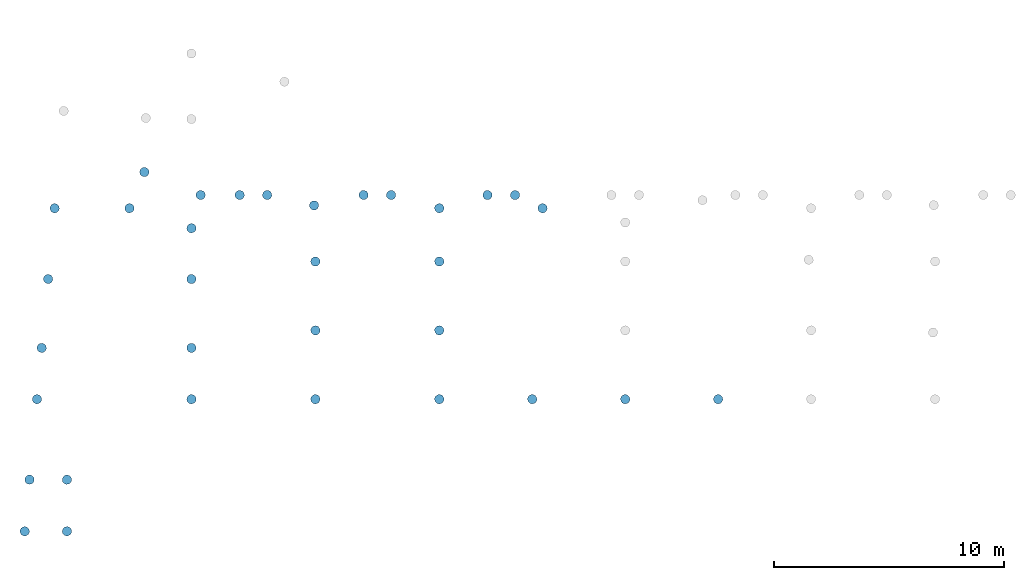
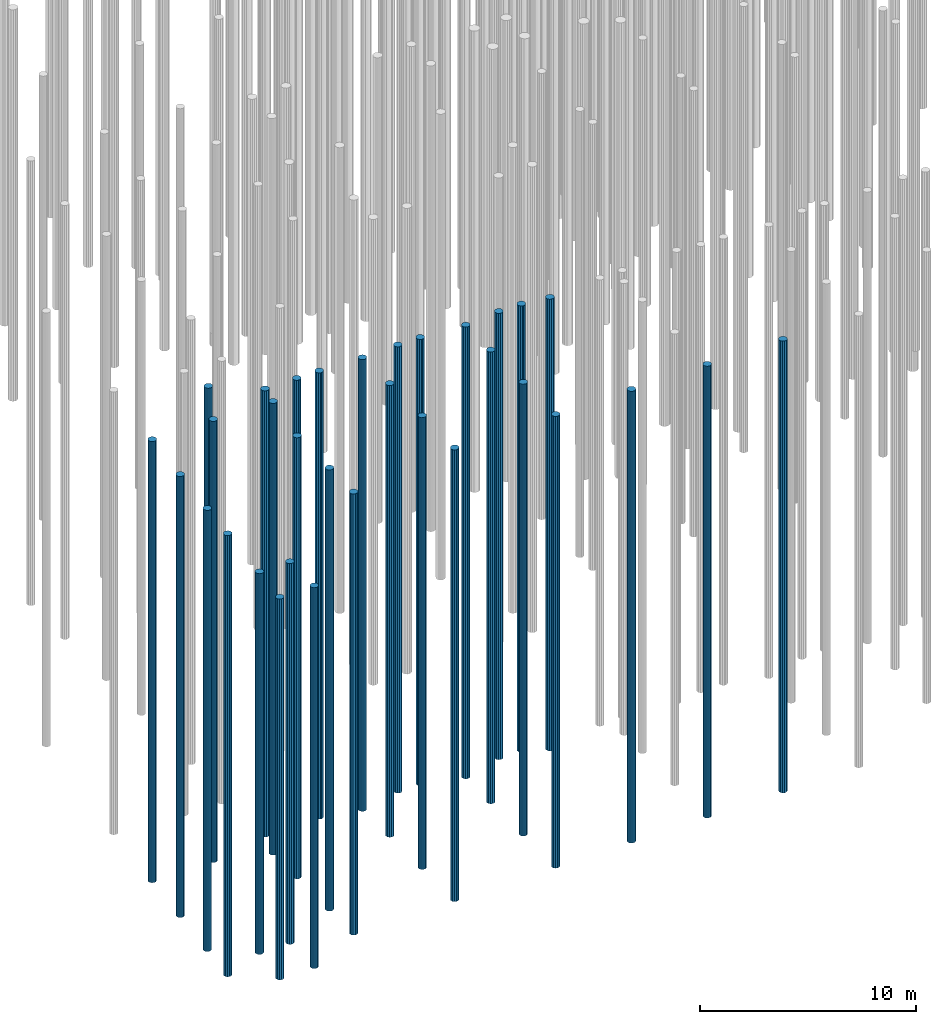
# One storey, part 1 of 20: 33 piles.
"""IFC2X3 building model written with IfcOpenShell, lengths in millimetres."""

from ifc_helpers import new_model, entity, si_unit, converted_unit, derived_unit, direction, frame, origin, place, context, subcontext, project, spatial, polyline, outline, extrude, material, element, save


model = new_model("IFC2X3")

# Units and contexts
model_context = context("Model", 3, precision=0.01, world=origin(), true_north=direction((6.12303176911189e-17, 1.0)))
body_context = subcontext(model_context, "Body", "Model", "MODEL_VIEW")
ifc_project = project(units=[si_unit("LENGTHUNIT", "METRE", prefix="MILLI"), si_unit("AREAUNIT", "SQUARE_METRE"), si_unit("VOLUMEUNIT", "CUBIC_METRE"), converted_unit("PLANEANGLEUNIT", "DEGREE", entity("IfcRatioMeasure", 0.0174532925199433), si_unit("PLANEANGLEUNIT", "RADIAN"), dimensions=[0, 0, 0, 0, 0, 0, 0]), si_unit("MASSUNIT", "GRAM", prefix="KILO"), derived_unit("MASSDENSITYUNIT", [(si_unit("MASSUNIT", "GRAM", prefix="KILO"), 1), (si_unit("LENGTHUNIT", "METRE"), -3)]), si_unit("TIMEUNIT", "SECOND"), si_unit("FREQUENCYUNIT", "HERTZ"), si_unit("THERMODYNAMICTEMPERATUREUNIT", "DEGREE_CELSIUS"), derived_unit("THERMALTRANSMITTANCEUNIT", [(si_unit("MASSUNIT", "GRAM", prefix="KILO"), 1), (si_unit("THERMODYNAMICTEMPERATUREUNIT", "KELVIN"), -1), (si_unit("TIMEUNIT", "SECOND"), -3)]), derived_unit("VOLUMETRICFLOWRATEUNIT", [(si_unit("LENGTHUNIT", "METRE"), 3), (si_unit("TIMEUNIT", "SECOND"), -1)]), si_unit("ELECTRICCURRENTUNIT", "AMPERE"), si_unit("ELECTRICVOLTAGEUNIT", "VOLT"), si_unit("POWERUNIT", "WATT"), si_unit("FORCEUNIT", "NEWTON", prefix="KILO"), si_unit("ILLUMINANCEUNIT", "LUX"), si_unit("LUMINOUSFLUXUNIT", "LUMEN"), si_unit("LUMINOUSINTENSITYUNIT", "CANDELA"), derived_unit("USERDEFINED", [(si_unit("MASSUNIT", "GRAM", prefix="KILO"), -1), (si_unit("LENGTHUNIT", "METRE"), -2), (si_unit("TIMEUNIT", "SECOND"), 3), (si_unit("LUMINOUSFLUXUNIT", "LUMEN"), 1)]), derived_unit("LINEARVELOCITYUNIT", [(si_unit("LENGTHUNIT", "METRE"), 1), (si_unit("TIMEUNIT", "SECOND"), -1)]), si_unit("PRESSUREUNIT", "PASCAL"), derived_unit("USERDEFINED", [(si_unit("LENGTHUNIT", "METRE"), -2), (si_unit("MASSUNIT", "GRAM", prefix="KILO"), 1), (si_unit("TIMEUNIT", "SECOND"), -2)])], contexts=[model_context])

# Site, building, storey
site_placement = place(None, origin())
site = spatial("IfcSite", under=ifc_project, at=site_placement, Name="Default", CompositionType="ELEMENT")
building_placement = place(site_placement, origin())
building = spatial("IfcBuilding", under=site, at=building_placement, Name="niet gebruiken", CompositionType="ELEMENT")
storey_placement = place(building_placement, frame((0.0, 0.0, -4000.0)))
storey = spatial("IfcBuildingStorey", under=building, at=storey_placement, Name="Level t.b.v. palenplan", CompositionType="ELEMENT", Elevation=-4000.0)

# Piles
ifc_material = material(Name="NLRS_f2_beton ihwg")
pile_1_placement = place(storey_placement, origin())
element("IfcPile", 1, at=pile_1_placement, inside=storey, material=ifc_material, Name="NLRS_17.12_SFO_TLB_funderingspaal grondverdringend_gen:Fundex_r410/500", ObjectType="NLRS_17.12_SFO_TLB_funderingspaal grondverdringend_gen:Fundex_r410/500", context=body_context, shape_type="SweptSolid", body=[
    extrude(outline(polyline([(-49.0597111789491, -199.04307257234), (49.0597111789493, -199.04307257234), (135.940144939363, -153.444703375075), (191.67832975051, -72.6940018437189), (203.505319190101, 24.7100194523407), (168.7116925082, 116.453273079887), (95.2682502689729, 181.518485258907), (49.05971117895, 199.04307257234), (-49.0597111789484, 199.04307257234), (-135.940144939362, 153.444703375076), (-191.678329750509, 72.694001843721), (-203.505319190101, -24.7100194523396), (-168.7116925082, -116.453273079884), (-95.2682502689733, -181.518485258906), (-49.0597111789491, -199.04307257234)])), frame((8100.0, 300.0, -22600.0), z_axis=(0.0, 0.0, 1.0), x_axis=(0.239315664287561, -0.970941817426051, 0.0)), (0.0, 0.0, 1.0), 24928.0),
])
pile_2_placement = place(storey_placement, origin())
element("IfcPile", 2, at=pile_2_placement, inside=storey, material=ifc_material, Name="NLRS_17.12_SFO_TLB_funderingspaal grondverdringend_gen:Fundex_r410/500", ObjectType="NLRS_17.12_SFO_TLB_funderingspaal grondverdringend_gen:Fundex_r410/500", context=body_context, shape_type="SweptSolid", body=[
    extrude(outline(polyline([(-49.0597111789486, -199.04307257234), (49.0597111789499, -199.04307257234), (135.940144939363, -153.444703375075), (191.678329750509, -72.6940018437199), (203.5053191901, 24.7100194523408), (168.711692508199, 116.453273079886), (95.2682502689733, 181.518485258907), (49.0597111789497, 199.043072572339), (-49.0597111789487, 199.04307257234), (-135.940144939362, 153.444703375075), (-191.678329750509, 72.6940018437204), (-203.5053191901, -24.7100194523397), (-168.7116925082, -116.453273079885), (-95.2682502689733, -181.518485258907), (-49.0597111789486, -199.04307257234)])), frame((2675.0, -5455.0, -19100.0), z_axis=(0.0, 0.0, 1.0), x_axis=(0.239315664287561, -0.970941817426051, 0.0)), (0.0, 0.0, 1.0), 21518.0),
])
pile_3_placement = place(storey_placement, origin())
element("IfcPile", 3, at=pile_3_placement, inside=storey, material=ifc_material, Name="NLRS_17.12_SFO_TLB_funderingspaal grondverdringend_gen:Fundex_r410/500", ObjectType="NLRS_17.12_SFO_TLB_funderingspaal grondverdringend_gen:Fundex_r410/500", context=body_context, shape_type="SweptSolid", body=[
    extrude(outline(polyline([(-49.0597111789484, -199.04307257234), (49.0597111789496, -199.04307257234), (135.940144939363, -153.444703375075), (191.67832975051, -72.6940018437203), (203.505319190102, 24.7100194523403), (168.7116925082, 116.453273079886), (95.2682502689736, 181.518485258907), (49.0597111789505, 199.043072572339), (-49.0597111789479, 199.04307257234), (-135.940144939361, 153.444703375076), (-191.678329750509, 72.6940018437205), (-203.5053191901, -24.7100194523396), (-168.7116925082, -116.453273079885), (-95.268250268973, -181.518485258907), (-49.0597111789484, -199.04307257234)])), frame((2675.0, -3205.0, -19100.0), z_axis=(0.0, 0.0, 1.0), x_axis=(0.239315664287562, -0.970941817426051, 0.0)), (0.0, 0.0, 1.0), 21518.0),
])
pile_4_placement = place(storey_placement, origin())
element("IfcPile", 4, at=pile_4_placement, inside=storey, material=ifc_material, Name="NLRS_17.12_SFO_TLB_funderingspaal grondverdringend_gen:Fundex_r410/500", ObjectType="NLRS_17.12_SFO_TLB_funderingspaal grondverdringend_gen:Fundex_r410/500", context=body_context, shape_type="SweptSolid", body=[
    extrude(outline(polyline([(-49.059711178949, -199.04307257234), (49.059711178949, -199.04307257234), (135.940144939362, -153.444703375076), (191.67832975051, -72.6940018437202), (203.505319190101, 24.7100194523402), (168.7116925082, 116.453273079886), (95.268250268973, 181.518485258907), (49.05971117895, 199.043072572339), (-49.0597111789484, 199.04307257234), (-135.940144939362, 153.444703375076), (-191.678329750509, 72.6940018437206), (-203.5053191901, -24.7100194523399), (-168.7116925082, -116.453273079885), (-95.2682502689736, -181.518485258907), (-49.059711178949, -199.04307257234)])), frame((1045.0, -3205.0, -19100.0), z_axis=(0.0, 0.0, 1.0), x_axis=(0.239315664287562, -0.970941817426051, 0.0)), (0.0, 0.0, 1.0), 21518.0),
])
pile_5_placement = place(storey_placement, origin())
element("IfcPile", 5, at=pile_5_placement, inside=storey, material=ifc_material, Name="NLRS_17.12_SFO_TLB_funderingspaal grondverdringend_gen:Fundex_r410/500", ObjectType="NLRS_17.12_SFO_TLB_funderingspaal grondverdringend_gen:Fundex_r410/500", context=body_context, shape_type="SweptSolid", body=[
    extrude(outline(polyline([(-49.0597111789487, -199.04307257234), (49.0597111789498, -199.04307257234), (135.940144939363, -153.444703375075), (191.678329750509, -72.6940018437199), (203.5053191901, 24.7100194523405), (168.711692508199, 116.453273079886), (95.2682502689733, 181.518485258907), (49.0597111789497, 199.043072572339), (-49.0597111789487, 199.04307257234), (-135.940144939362, 153.444703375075), (-191.678329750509, 72.6940018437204), (-203.5053191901, -24.7100194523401), (-168.7116925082, -116.453273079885), (-95.2682502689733, -181.518485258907), (-49.0597111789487, -199.04307257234)])), frame((835.0, -5455.0, -19100.0), z_axis=(0.0, 0.0, 1.0), x_axis=(0.239315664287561, -0.970941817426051, 0.0)), (0.0, 0.0, 1.0), 21518.0),
])
pile_6_placement = place(storey_placement, origin())
element("IfcPile", 6, at=pile_6_placement, inside=storey, material=ifc_material, Name="NLRS_17.12_SFO_TLB_funderingspaal grondverdringend_gen:Fundex_r410/500", ObjectType="NLRS_17.12_SFO_TLB_funderingspaal grondverdringend_gen:Fundex_r410/500", context=body_context, shape_type="SweptSolid", body=[
    extrude(outline(polyline([(-49.059711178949, -199.04307257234), (49.0597111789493, -199.04307257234), (135.940144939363, -153.444703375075), (191.67832975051, -72.6940018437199), (203.5053191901, 24.7100194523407), (168.711692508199, 116.453273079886), (95.2682502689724, 181.518485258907), (49.0597111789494, 199.04307257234), (-49.0597111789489, 199.04307257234), (-135.940144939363, 153.444703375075), (-191.67832975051, 72.6940018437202), (-203.505319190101, -24.7100194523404), (-168.7116925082, -116.453273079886), (-95.2682502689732, -181.518485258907), (-49.059711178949, -199.04307257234)])), frame((1370.0, 300.0, -22600.0), z_axis=(0.0, 0.0, 1.0), x_axis=(0.23931566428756, -0.970941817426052, 0.0)), (0.0, 0.0, 1.0), 24928.0),
])
pile_7_placement = place(storey_placement, origin())
element("IfcPile", 7, at=pile_7_placement, inside=storey, material=ifc_material, Name="NLRS_17.12_SFO_TLB_funderingspaal grondverdringend_gen:Fundex_r410/500", ObjectType="NLRS_17.12_SFO_TLB_funderingspaal grondverdringend_gen:Fundex_r410/500", context=body_context, shape_type="SweptSolid", body=[
    extrude(outline(polyline([(-49.0597111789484, -199.04307257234), (49.0597111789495, -199.04307257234), (135.940144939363, -153.444703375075), (191.67832975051, -72.69400184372), (203.505319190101, 24.7100194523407), (168.711692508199, 116.453273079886), (95.2682502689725, 181.518485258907), (49.0597111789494, 199.04307257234), (-49.059711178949, 199.04307257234), (-135.940144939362, 153.444703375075), (-191.678329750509, 72.6940018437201), (-203.5053191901, -24.7100194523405), (-168.7116925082, -116.453273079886), (-95.2682502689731, -181.518485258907), (-49.0597111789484, -199.04307257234)])), frame((1575.0, 2535.0, -22600.0), z_axis=(0.0, 0.0, 1.0), x_axis=(0.239315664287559, -0.970941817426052, 0.0)), (0.0, 0.0, 1.0), 24928.0),
])
pile_8_placement = place(storey_placement, origin())
element("IfcPile", 8, at=pile_8_placement, inside=storey, material=ifc_material, Name="NLRS_17.12_SFO_TLB_funderingspaal grondverdringend_gen:Fundex_r410/500", ObjectType="NLRS_17.12_SFO_TLB_funderingspaal grondverdringend_gen:Fundex_r410/500", context=body_context, shape_type="SweptSolid", body=[
    extrude(outline(polyline([(-49.0597111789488, -199.04307257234), (49.0597111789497, -199.04307257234), (135.940144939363, -153.444703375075), (191.678329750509, -72.6940018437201), (203.5053191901, 24.7100194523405), (168.711692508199, 116.453273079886), (95.2682502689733, 181.518485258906), (49.0597111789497, 199.043072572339), (-49.0597111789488, 199.04307257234), (-135.940144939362, 153.444703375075), (-191.678329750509, 72.6940018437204), (-203.5053191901, -24.7100194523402), (-168.7116925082, -116.453273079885), (-95.2682502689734, -181.518485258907), (-49.0597111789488, -199.04307257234)])), frame((1855.0, 5535.0, -22600.0), z_axis=(0.0, 0.0, 1.0), x_axis=(0.239315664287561, -0.970941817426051, 0.0)), (0.0, 0.0, 1.0), 24928.0),
])
pile_9_placement = place(storey_placement, origin())
element("IfcPile", 9, at=pile_9_placement, inside=storey, material=ifc_material, Name="NLRS_17.12_SFO_TLB_funderingspaal grondverdringend_gen:Fundex_r410/500", ObjectType="NLRS_17.12_SFO_TLB_funderingspaal grondverdringend_gen:Fundex_r410/500", context=body_context, shape_type="SweptSolid", body=[
    extrude(outline(polyline([(-49.0597111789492, -199.04307257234), (49.0597111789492, -199.04307257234), (135.940144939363, -153.444703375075), (191.678329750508, -72.6940018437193), (203.505319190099, 24.7100194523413), (168.711692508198, 116.453273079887), (95.2682502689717, 181.518485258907), (49.0597111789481, 199.04307257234), (-49.0597111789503, 199.04307257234), (-135.940144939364, 153.444703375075), (-191.67832975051, 72.6940018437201), (-203.505319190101, -24.7100194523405), (-168.711692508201, -116.453273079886), (-95.268250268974, -181.518485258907), (-49.0597111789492, -199.04307257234)])), frame((2140.0, 8621.0, -22600.0), z_axis=(0.0, 0.0, 1.0), x_axis=(0.239315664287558, -0.970941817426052, 0.0)), (0.0, 0.0, 1.0), 24928.0),
])
pile_10_placement = place(storey_placement, origin())
element("IfcPile", 10, at=pile_10_placement, inside=storey, material=ifc_material, Name="NLRS_17.12_SFO_TLB_funderingspaal grondverdringend_gen:Fundex_r410/500", ObjectType="NLRS_17.12_SFO_TLB_funderingspaal grondverdringend_gen:Fundex_r410/500", context=body_context, shape_type="SweptSolid", body=[
    extrude(outline(polyline([(-49.0597111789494, -199.04307257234), (49.0597111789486, -199.04307257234), (135.940144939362, -153.444703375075), (191.678329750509, -72.694001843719), (203.5053191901, 24.7100194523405), (168.711692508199, 116.453273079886), (95.2682502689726, 181.518485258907), (49.0597111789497, 199.043072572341), (-49.0597111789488, 199.043072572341), (-135.940144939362, 153.444703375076), (-191.678329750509, 72.6940018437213), (-203.505319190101, -24.7100194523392), (-168.7116925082, -116.453273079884), (-95.268250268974, -181.518485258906), (-49.0597111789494, -199.04307257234)])), frame((8100.0, 2535.0, -22600.0), z_axis=(0.0, 0.0, 1.0), x_axis=(0.239315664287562, -0.970941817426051, 0.0)), (0.0, 0.0, 1.0), 24928.0),
])
pile_11_placement = place(storey_placement, origin())
element("IfcPile", 11, at=pile_11_placement, inside=storey, material=ifc_material, Name="NLRS_17.12_SFO_TLB_funderingspaal grondverdringend_gen:Fundex_r410/500", ObjectType="NLRS_17.12_SFO_TLB_funderingspaal grondverdringend_gen:Fundex_r410/500", context=body_context, shape_type="SweptSolid", body=[
    extrude(outline(polyline([(-49.0597111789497, -199.043072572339), (49.0597111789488, -199.043072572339), (135.940144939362, -153.444703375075), (191.678329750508, -72.6940018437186), (203.505319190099, 24.710019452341), (168.711692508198, 116.453273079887), (95.2682502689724, 181.518485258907), (49.0597111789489, 199.043072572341), (-49.0597111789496, 199.043072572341), (-135.940144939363, 153.444703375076), (-191.67832975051, 72.6940018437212), (-203.505319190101, -24.7100194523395), (-168.711692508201, -116.453273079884), (-95.2682502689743, -181.518485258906), (-49.0597111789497, -199.043072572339)])), frame((8100.0, 5535.0, -22600.0), z_axis=(0.0, 0.0, 1.0), x_axis=(0.239315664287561, -0.970941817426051, 0.0)), (0.0, 0.0, 1.0), 24928.0),
])
pile_12_placement = place(storey_placement, origin())
element("IfcPile", 12, at=pile_12_placement, inside=storey, material=ifc_material, Name="NLRS_17.12_SFO_TLB_funderingspaal grondverdringend_gen:Fundex_r410/500", ObjectType="NLRS_17.12_SFO_TLB_funderingspaal grondverdringend_gen:Fundex_r410/500", context=body_context, shape_type="SweptSolid", body=[
    extrude(outline(polyline([(-49.0597111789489, -199.043072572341), (49.0597111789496, -199.043072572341), (135.940144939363, -153.444703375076), (191.678329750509, -72.6940018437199), (203.5053191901, 24.7100194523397), (168.711692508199, 116.453273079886), (95.2682502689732, 181.518485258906), (49.0597111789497, 199.043072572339), (-49.0597111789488, 199.043072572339), (-135.940144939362, 153.444703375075), (-191.678329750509, 72.6940018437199), (-203.5053191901, -24.7100194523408), (-168.7116925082, -116.453273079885), (-95.2682502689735, -181.518485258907), (-49.0597111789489, -199.043072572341)])), frame((5400.0, 8621.0, -22600.0), z_axis=(0.0, 0.0, 1.0), x_axis=(0.239315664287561, -0.970941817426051, 0.0)), (0.0, 0.0, 1.0), 24928.0),
])
pile_13_placement = place(storey_placement, origin())
element("IfcPile", 13, at=pile_13_placement, inside=storey, material=ifc_material, Name="NLRS_17.12_SFO_TLB_funderingspaal grondverdringend_gen:Fundex_r410/500", ObjectType="NLRS_17.12_SFO_TLB_funderingspaal grondverdringend_gen:Fundex_r410/500", context=body_context, shape_type="SweptSolid", body=[
    extrude(outline(polyline([(-49.0597111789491, -199.04307257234), (49.0597111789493, -199.04307257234), (135.940144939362, -153.444703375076), (191.678329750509, -72.694001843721), (203.5053191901, 24.7100194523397), (168.711692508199, 116.453273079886), (95.2682502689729, 181.518485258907), (49.0597111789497, 199.043072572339), (-49.0597111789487, 199.043072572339), (-135.940144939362, 153.444703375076), (-191.678329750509, 72.694001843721), (-203.505319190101, -24.7100194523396), (-168.7116925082, -116.453273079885), (-95.2682502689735, -181.518485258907), (-49.0597111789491, -199.04307257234)])), frame((13500.0, 300.0, -22600.0), z_axis=(0.0, 0.0, 1.0), x_axis=(0.239315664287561, -0.970941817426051, 0.0)), (0.0, 0.0, 1.0), 25528.0),
])
pile_14_placement = place(storey_placement, origin())
element("IfcPile", 14, at=pile_14_placement, inside=storey, material=ifc_material, Name="NLRS_17.12_SFO_TLB_funderingspaal grondverdringend_gen:Fundex_r410/500", ObjectType="NLRS_17.12_SFO_TLB_funderingspaal grondverdringend_gen:Fundex_r410/500", context=body_context, shape_type="SweptSolid", body=[
    extrude(outline(polyline([(-49.0597111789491, -199.04307257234), (49.0597111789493, -199.04307257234), (135.940144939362, -153.444703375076), (191.678329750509, -72.694001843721), (203.5053191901, 24.7100194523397), (168.711692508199, 116.453273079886), (95.2682502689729, 181.518485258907), (49.0597111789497, 199.043072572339), (-49.0597111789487, 199.043072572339), (-135.940144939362, 153.444703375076), (-191.678329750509, 72.694001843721), (-203.505319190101, -24.7100194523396), (-168.7116925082, -116.453273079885), (-95.2682502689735, -181.518485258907), (-49.0597111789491, -199.04307257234)])), frame((18900.0, 300.0, -22600.0), z_axis=(0.0, 0.0, 1.0), x_axis=(0.239315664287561, -0.970941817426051, 0.0)), (0.0, 0.0, 1.0), 25528.0),
])
pile_15_placement = place(storey_placement, origin())
element("IfcPile", 15, at=pile_15_placement, inside=storey, material=ifc_material, Name="NLRS_17.12_SFO_TLB_funderingspaal grondverdringend_gen:Fundex_r410/500", ObjectType="NLRS_17.12_SFO_TLB_funderingspaal grondverdringend_gen:Fundex_r410/500", context=body_context, shape_type="SweptSolid", body=[
    extrude(outline(polyline([(-49.0597111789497, -199.043072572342), (49.0597111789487, -199.043072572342), (135.940144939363, -153.444703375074), (191.67832975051, -72.6940018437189), (203.5053191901, 24.7100194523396), (168.711692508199, 116.453273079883), (95.2682502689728, 181.518485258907), (49.0597111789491, 199.043072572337), (-49.0597111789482, 199.043072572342), (-135.940144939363, 153.444703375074), (-191.67832975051, 72.6940018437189), (-203.505319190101, -24.7100194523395), (-168.7116925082, -116.453273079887), (-95.2682502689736, -181.518485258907), (-49.0597111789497, -199.043072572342)])), frame((22950.0, 300.0, -22600.0), z_axis=(0.0, 0.0, 1.0), x_axis=(0.239315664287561, -0.970941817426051, 0.0)), (0.0, 0.0, 1.0), 25528.0),
])
pile_16_placement = place(storey_placement, origin())
element("IfcPile", 16, at=pile_16_placement, inside=storey, material=ifc_material, Name="NLRS_17.12_SFO_TLB_funderingspaal grondverdringend_gen:Fundex_r410/500", ObjectType="NLRS_17.12_SFO_TLB_funderingspaal grondverdringend_gen:Fundex_r410/500", context=body_context, shape_type="SweptSolid", body=[
    extrude(outline(polyline([(-49.0597111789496, -199.043072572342), (49.0597111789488, -199.043072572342), (135.940144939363, -153.444703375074), (191.67832975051, -72.6940018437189), (203.5053191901, 24.7100194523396), (168.711692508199, 116.453273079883), (95.2682502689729, 181.518485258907), (49.0597111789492, 199.043072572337), (-49.0597111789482, 199.043072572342), (-135.940144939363, 153.444703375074), (-191.67832975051, 72.6940018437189), (-203.505319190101, -24.7100194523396), (-168.7116925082, -116.453273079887), (-95.2682502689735, -181.518485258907), (-49.0597111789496, -199.043072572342)])), frame((27000.0, 300.0, -22600.0), z_axis=(0.0, 0.0, 1.0), x_axis=(0.239315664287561, -0.970941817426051, 0.0)), (0.0, 0.0, 1.0), 25528.0),
])
pile_17_placement = place(storey_placement, origin())
element("IfcPile", 17, at=pile_17_placement, inside=storey, material=ifc_material, Name="NLRS_17.12_SFO_TLB_funderingspaal grondverdringend_gen:Fundex_r410/500", ObjectType="NLRS_17.12_SFO_TLB_funderingspaal grondverdringend_gen:Fundex_r410/500", context=body_context, shape_type="SweptSolid", body=[
    extrude(outline(polyline([(-49.0597111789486, -199.043072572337), (49.0597111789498, -199.043072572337), (135.940144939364, -153.44470337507), (191.678329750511, -72.6940018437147), (203.505319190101, 24.7100194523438), (168.7116925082, 116.453273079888), (95.2682502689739, 181.518485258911), (49.0597111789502, 199.043072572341), (-49.0597111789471, 199.043072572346), (-135.940144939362, 153.444703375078), (-191.678329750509, 72.6940018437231), (-203.5053191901, -24.7100194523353), (-168.711692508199, -116.453273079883), (-95.2682502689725, -181.518485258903), (-49.0597111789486, -199.043072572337)])), frame((31050.0, 300.0, -22600.0), z_axis=(0.0, 0.0, 1.0), x_axis=(0.239315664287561, -0.970941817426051, 0.0)), (0.0, 0.0, 1.0), 25528.0),
])
pile_18_placement = place(storey_placement, origin())
element("IfcPile", 18, at=pile_18_placement, inside=storey, material=ifc_material, Name="NLRS_17.12_SFO_TLB_funderingspaal grondverdringend_gen:Fundex_r410/500", ObjectType="NLRS_17.12_SFO_TLB_funderingspaal grondverdringend_gen:Fundex_r410/500", context=body_context, shape_type="SweptSolid", body=[
    extrude(outline(polyline([(-49.0597111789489, -199.043072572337), (49.0597111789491, -199.043072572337), (135.940144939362, -153.444703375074), (191.678329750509, -72.694001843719), (203.505319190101, 24.7100194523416), (168.7116925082, 116.453273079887), (95.2682502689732, 181.518485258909), (49.0597111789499, 199.043072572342), (-49.0597111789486, 199.043072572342), (-135.940144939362, 153.444703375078), (-191.678329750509, 72.6940018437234), (-203.5053191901, -24.7100194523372), (-168.7116925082, -116.453273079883), (-95.2682502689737, -181.518485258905), (-49.0597111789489, -199.043072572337)])), frame((13500.0, 3300.0, -22600.0), z_axis=(0.0, 0.0, 1.0), x_axis=(0.239315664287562, -0.970941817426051, 0.0)), (0.0, 0.0, 1.0), 25528.0),
])
pile_19_placement = place(storey_placement, origin())
element("IfcPile", 19, at=pile_19_placement, inside=storey, material=ifc_material, Name="NLRS_17.12_SFO_TLB_funderingspaal grondverdringend_gen:Fundex_r410/500", ObjectType="NLRS_17.12_SFO_TLB_funderingspaal grondverdringend_gen:Fundex_r410/500", context=body_context, shape_type="SweptSolid", body=[
    extrude(outline(polyline([(-49.0597111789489, -199.043072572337), (49.0597111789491, -199.043072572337), (135.940144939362, -153.444703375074), (191.678329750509, -72.694001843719), (203.505319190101, 24.7100194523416), (168.7116925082, 116.453273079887), (95.2682502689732, 181.518485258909), (49.0597111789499, 199.043072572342), (-49.0597111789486, 199.043072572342), (-135.940144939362, 153.444703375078), (-191.678329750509, 72.6940018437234), (-203.5053191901, -24.7100194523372), (-168.7116925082, -116.453273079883), (-95.2682502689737, -181.518485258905), (-49.0597111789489, -199.043072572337)])), frame((18900.0, 3300.0, -22600.0), z_axis=(0.0, 0.0, 1.0), x_axis=(0.239315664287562, -0.970941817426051, 0.0)), (0.0, 0.0, 1.0), 25528.0),
])
pile_20_placement = place(storey_placement, origin())
element("IfcPile", 20, at=pile_20_placement, inside=storey, material=ifc_material, Name="NLRS_17.12_SFO_TLB_funderingspaal grondverdringend_gen:Fundex_r410/500", ObjectType="NLRS_17.12_SFO_TLB_funderingspaal grondverdringend_gen:Fundex_r410/500", context=body_context, shape_type="SweptSolid", body=[
    extrude(outline(polyline([(-49.0597111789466, -199.043072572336), (49.059711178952, -199.043072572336), (135.940144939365, -153.444703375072), (191.678329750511, -72.6940018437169), (203.505319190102, 24.7100194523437), (168.711692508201, 116.45327307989), (95.2682502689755, 181.518485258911), (49.0597111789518, 199.043072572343), (-49.0597111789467, 199.043072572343), (-135.94014493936, 153.44470337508), (-191.678329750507, 72.6940018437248), (-203.505319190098, -24.7100194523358), (-168.711692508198, -116.453273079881), (-95.2682502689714, -181.518485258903), (-49.0597111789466, -199.043072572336)])), frame((13500.0, 6300.0, -22600.0), z_axis=(0.0, 0.0, 1.0), x_axis=(0.239315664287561, -0.970941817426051, 0.0)), (0.0, 0.0, 1.0), 25528.0),
])
pile_21_placement = place(storey_placement, origin())
element("IfcPile", 21, at=pile_21_placement, inside=storey, material=ifc_material, Name="NLRS_17.12_SFO_TLB_funderingspaal grondverdringend_gen:Fundex_r410/500", ObjectType="NLRS_17.12_SFO_TLB_funderingspaal grondverdringend_gen:Fundex_r410/500", context=body_context, shape_type="SweptSolid", body=[
    extrude(outline(polyline([(-49.0597111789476, -199.04307257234), (49.0597111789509, -199.04307257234), (135.940144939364, -153.444703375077), (191.67832975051, -72.6940018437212), (203.505319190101, 24.7100194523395), (168.7116925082, 116.453273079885), (95.2682502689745, 181.518485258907), (49.0597111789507, 199.043072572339), (-49.0597111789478, 199.043072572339), (-135.940144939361, 153.444703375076), (-191.678329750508, 72.6940018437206), (-203.505319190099, -24.71001945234), (-168.711692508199, -116.453273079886), (-95.2682502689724, -181.518485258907), (-49.0597111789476, -199.04307257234)])), frame((18900.0, 6300.0, -22600.0), z_axis=(0.0, 0.0, 1.0), x_axis=(0.239315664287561, -0.970941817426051, 0.0)), (0.0, 0.0, 1.0), 25528.0),
])
pile_22_placement = place(storey_placement, origin())
element("IfcPile", 22, at=pile_22_placement, inside=storey, material=ifc_material, Name="NLRS_17.12_SFO_TLB_funderingspaal grondverdringend_gen:Fundex_r410/500", ObjectType="NLRS_17.12_SFO_TLB_funderingspaal grondverdringend_gen:Fundex_r410/500", context=body_context, shape_type="SweptSolid", body=[
    extrude(outline(polyline([(-49.0597111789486, -199.04307257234), (49.0597111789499, -199.04307257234), (135.940144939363, -153.444703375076), (191.678329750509, -72.6940018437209), (203.5053191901, 24.7100194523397), (168.711692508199, 116.453273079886), (95.2682502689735, 181.518485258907), (49.0597111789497, 199.043072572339), (-49.0597111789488, 199.043072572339), (-135.940144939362, 153.444703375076), (-191.678329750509, 72.6940018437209), (-203.5053191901, -24.7100194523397), (-168.7116925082, -116.453273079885), (-95.2682502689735, -181.518485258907), (-49.0597111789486, -199.04307257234)])), frame((13441.7462136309, 8742.57806895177, -22600.0), z_axis=(0.0, 0.0, 1.0), x_axis=(0.239315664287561, -0.970941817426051, 0.0)), (0.0, 0.0, 1.0), 25528.0),
])
pile_23_placement = place(storey_placement, origin())
element("IfcPile", 23, at=pile_23_placement, inside=storey, material=ifc_material, Name="NLRS_17.12_SFO_TLB_funderingspaal grondverdringend_gen:Fundex_r410/500", ObjectType="NLRS_17.12_SFO_TLB_funderingspaal grondverdringend_gen:Fundex_r410/500", context=body_context, shape_type="SweptSolid", body=[
    extrude(outline(polyline([(-49.0597111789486, -199.04307257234), (49.0597111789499, -199.04307257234), (135.940144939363, -153.444703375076), (191.678329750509, -72.6940018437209), (203.5053191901, 24.7100194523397), (168.711692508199, 116.453273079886), (95.2682502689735, 181.518485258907), (49.0597111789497, 199.043072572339), (-49.0597111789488, 199.043072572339), (-135.940144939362, 153.444703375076), (-191.678329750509, 72.6940018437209), (-203.5053191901, -24.7100194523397), (-168.7116925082, -116.453273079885), (-95.2682502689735, -181.518485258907), (-49.0597111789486, -199.04307257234)])), frame((18900.0, 8621.0, -22600.0), z_axis=(0.0, 0.0, 1.0), x_axis=(0.239315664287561, -0.970941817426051, 0.0)), (0.0, 0.0, 1.0), 25528.0),
])
pile_24_placement = place(storey_placement, origin())
element("IfcPile", 24, at=pile_24_placement, inside=storey, material=ifc_material, Name="NLRS_17.12_SFO_TLB_funderingspaal grondverdringend_gen:Fundex_r410/500", ObjectType="NLRS_17.12_SFO_TLB_funderingspaal grondverdringend_gen:Fundex_r410/500", context=body_context, shape_type="SweptSolid", body=[
    extrude(outline(polyline([(-49.0597111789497, -199.043072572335), (49.0597111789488, -199.043072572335), (135.940144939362, -153.444703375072), (191.67832975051, -72.6940018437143), (203.505319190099, 24.7100194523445), (168.711692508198, 116.45327307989), (95.2682502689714, 181.518485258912), (49.0597111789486, 199.043072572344), (-49.0597111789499, 199.043072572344), (-135.940144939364, 153.444703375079), (-191.678329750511, 72.6940018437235), (-203.505319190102, -24.7100194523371), (-168.7116925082, -116.453273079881), (-95.2682502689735, -181.518485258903), (-49.0597111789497, -199.043072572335)])), frame((15600.0, 9196.0, -22600.0), z_axis=(0.0, 0.0, 1.0), x_axis=(0.239315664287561, -0.970941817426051, 0.0)), (0.0, 0.0, 1.0), 25220.0),
])
pile_25_placement = place(storey_placement, origin())
element("IfcPile", 25, at=pile_25_placement, inside=storey, material=ifc_material, Name="NLRS_17.12_SFO_TLB_funderingspaal grondverdringend_gen:Fundex_r410/500", ObjectType="NLRS_17.12_SFO_TLB_funderingspaal grondverdringend_gen:Fundex_r410/500", context=body_context, shape_type="SweptSolid", body=[
    extrude(outline(polyline([(-49.0597111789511, -199.04307257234), (49.0597111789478, -199.04307257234), (135.940144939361, -153.444703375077), (191.678329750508, -72.6940018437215), (203.5053191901, 24.7100194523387), (168.711692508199, 116.453273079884), (95.268250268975, 181.518485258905), (49.0597111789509, 199.043072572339), (-49.0597111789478, 199.04307257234), (-135.940144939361, 153.444703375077), (-191.678329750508, 72.6940018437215), (-203.505319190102, -24.7100194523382), (-168.711692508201, -116.453273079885), (-95.2682502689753, -181.518485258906), (-49.0597111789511, -199.04307257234)])), frame((16800.0, 9196.0, -22600.0), z_axis=(0.0, 0.0, 1.0), x_axis=(-0.970941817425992, -0.239315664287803, 0.0)), (0.0, 0.0, 1.0), 25220.0),
])
pile_26_placement = place(storey_placement, origin())
element("IfcPile", 26, at=pile_26_placement, inside=storey, material=ifc_material, Name="NLRS_17.12_SFO_TLB_funderingspaal grondverdringend_gen:Fundex_r410/500", ObjectType="NLRS_17.12_SFO_TLB_funderingspaal grondverdringend_gen:Fundex_r410/500", context=body_context, shape_type="SweptSolid", body=[
    extrude(outline(polyline([(-49.0597111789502, -199.043072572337), (49.0597111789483, -199.043072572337), (135.940144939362, -153.444703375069), (191.67832975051, -72.6940018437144), (203.505319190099, 24.7100194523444), (168.711692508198, 116.453273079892), (95.2682502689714, 181.518485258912), (49.0597111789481, 199.043072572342), (-49.0597111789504, 199.043072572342), (-135.940144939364, 153.444703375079), (-191.678329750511, 72.6940018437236), (-203.505319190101, -24.710019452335), (-168.7116925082, -116.453273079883), (-95.2682502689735, -181.518485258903), (-49.0597111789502, -199.043072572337)])), frame((21000.0, 9196.0, -22600.0), z_axis=(0.0, 0.0, 1.0), x_axis=(0.239315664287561, -0.970941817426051, 0.0)), (0.0, 0.0, 1.0), 25220.0),
])
pile_27_placement = place(storey_placement, origin())
element("IfcPile", 27, at=pile_27_placement, inside=storey, material=ifc_material, Name="NLRS_17.12_SFO_TLB_funderingspaal grondverdringend_gen:Fundex_r410/500", ObjectType="NLRS_17.12_SFO_TLB_funderingspaal grondverdringend_gen:Fundex_r410/500", context=body_context, shape_type="SweptSolid", body=[
    extrude(outline(polyline([(-49.0597111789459, -199.043072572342), (49.059711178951, -199.043072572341), (135.940144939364, -153.444703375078), (191.678329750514, -72.694001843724), (203.505319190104, 24.7100194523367), (168.711692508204, 116.453273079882), (95.2682502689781, 181.518485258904), (49.0597111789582, 199.043072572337), (-49.0597111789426, 199.043072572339), (-135.940144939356, 153.444703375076), (-191.678329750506, 72.6940018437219), (-203.505319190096, -24.7100194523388), (-168.711692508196, -116.453273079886), (-95.2682502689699, -181.518485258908), (-49.0597111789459, -199.043072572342)])), frame((22200.0, 9196.0, -22600.0), z_axis=(0.0, 0.0, 1.0), x_axis=(-0.970941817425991, -0.239315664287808, 0.0)), (0.0, 0.0, 1.0), 25220.0),
])
pile_28_placement = place(storey_placement, origin())
element("IfcPile", 28, at=pile_28_placement, inside=storey, material=ifc_material, Name="NLRS_17.12_SFO_TLB_funderingspaal grondverdringend_gen:Fundex_r410/500", ObjectType="NLRS_17.12_SFO_TLB_funderingspaal grondverdringend_gen:Fundex_r410/500", context=body_context, shape_type="SweptSolid", body=[
    extrude(outline(polyline([(-49.0597111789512, -199.043072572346), (49.0597111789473, -199.043072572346), (135.940144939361, -153.444703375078), (191.678329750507, -72.6940018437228), (203.505319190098, 24.7100194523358), (168.711692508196, 116.45327307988), (95.2682502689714, 181.518485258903), (49.0597111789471, 199.043072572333), (-49.0597111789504, 199.043072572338), (-135.940144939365, 153.44470337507), (-191.678329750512, 72.6940018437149), (-203.505319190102, -24.7100194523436), (-168.711692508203, -116.453273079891), (-95.2682502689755, -181.518485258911), (-49.0597111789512, -199.043072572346)])), frame((23400.0, 8621.0, -22600.0), z_axis=(0.0, 0.0, 1.0), x_axis=(0.239315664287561, -0.970941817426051, 0.0)), (0.0, 0.0, 1.0), 25528.0),
])
pile_29_placement = place(storey_placement, origin())
element("IfcPile", 29, at=pile_29_placement, inside=storey, material=ifc_material, Name="NLRS_17.12_SFO_TLB_funderingspaal grondverdringend_gen:Fundex_r410/500", ObjectType="NLRS_17.12_SFO_TLB_funderingspaal grondverdringend_gen:Fundex_r410/500", context=body_context, shape_type="SweptSolid", body=[
    extrude(outline(polyline([(-49.0597111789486, -199.04307257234), (49.0597111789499, -199.04307257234), (135.940144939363, -153.444703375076), (191.678329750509, -72.6940018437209), (203.5053191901, 24.7100194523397), (168.711692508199, 116.453273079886), (95.2682502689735, 181.518485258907), (49.0597111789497, 199.043072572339), (-49.0597111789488, 199.043072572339), (-135.940144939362, 153.444703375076), (-191.678329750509, 72.6940018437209), (-203.5053191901, -24.7100194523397), (-168.7116925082, -116.453273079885), (-95.2682502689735, -181.518485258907), (-49.0597111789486, -199.04307257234)])), frame((10200.0, 9196.0, -22600.0), z_axis=(0.0, 0.0, 1.0), x_axis=(0.239315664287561, -0.970941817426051, 0.0)), (0.0, 0.0, 1.0), 25220.0),
])
pile_30_placement = place(storey_placement, origin())
element("IfcPile", 30, at=pile_30_placement, inside=storey, material=ifc_material, Name="NLRS_17.12_SFO_TLB_funderingspaal grondverdringend_gen:Fundex_r410/500", ObjectType="NLRS_17.12_SFO_TLB_funderingspaal grondverdringend_gen:Fundex_r410/500", context=body_context, shape_type="SweptSolid", body=[
    extrude(outline(polyline([(-49.0597111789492, -199.04307257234), (49.0597111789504, -199.04307257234), (135.940144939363, -153.444703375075), (191.678329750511, -72.6940018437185), (203.505319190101, 24.7100194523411), (168.7116925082, 116.453273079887), (95.268250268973, 181.518485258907), (49.0597111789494, 199.043072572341), (-49.0597111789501, 199.043072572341), (-135.940144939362, 153.444703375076), (-191.67832975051, 72.6940018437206), (-203.505319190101, -24.7100194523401), (-168.711692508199, -116.453273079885), (-95.2682502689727, -181.518485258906), (-49.0597111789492, -199.04307257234)])), frame((11400.0, 9196.0, -22600.0), z_axis=(0.0, 0.0, 1.0), x_axis=(-0.970941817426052, -0.239315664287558, 0.0)), (0.0, 0.0, 1.0), 25220.0),
])
pile_31_placement = place(storey_placement, origin())
element("IfcPile", 31, at=pile_31_placement, inside=storey, material=ifc_material, Name="NLRS_17.12_SFO_TLB_funderingspaal grondverdringend_gen:Fundex_r410/500", ObjectType="NLRS_17.12_SFO_TLB_funderingspaal grondverdringend_gen:Fundex_r410/500", context=body_context, shape_type="SweptSolid", body=[
    extrude(outline(polyline([(-49.0597111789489, -199.043072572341), (49.0597111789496, -199.043072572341), (135.940144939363, -153.444703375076), (191.678329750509, -72.6940018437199), (203.5053191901, 24.7100194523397), (168.7116925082, 116.453273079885), (95.2682502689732, 181.518485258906), (49.0597111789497, 199.043072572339), (-49.0597111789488, 199.043072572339), (-135.940144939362, 153.444703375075), (-191.678329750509, 72.6940018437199), (-203.5053191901, -24.7100194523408), (-168.7116925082, -116.453273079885), (-95.2682502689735, -181.518485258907), (-49.0597111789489, -199.043072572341)])), frame((8500.0, 9196.0, -22600.0), z_axis=(0.0, 0.0, 1.0), x_axis=(0.239315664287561, -0.970941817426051, 0.0)), (0.0, 0.0, 1.0), 25220.0),
])
pile_32_placement = place(storey_placement, origin())
element("IfcPile", 32, at=pile_32_placement, inside=storey, material=ifc_material, Name="NLRS_17.12_SFO_TLB_funderingspaal grondverdringend_gen:Fundex_r410/500", ObjectType="NLRS_17.12_SFO_TLB_funderingspaal grondverdringend_gen:Fundex_r410/500", context=body_context, shape_type="SweptSolid", body=[
    extrude(outline(polyline([(-49.0597111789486, -199.04307257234), (49.0597111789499, -199.04307257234), (135.940144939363, -153.444703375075), (191.67832975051, -72.6940018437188), (203.5053191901, 24.7100194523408), (168.711692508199, 116.453273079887), (95.2682502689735, 181.518485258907), (49.05971117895, 199.04307257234), (-49.0597111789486, 199.04307257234), (-135.940144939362, 153.444703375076), (-191.678329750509, 72.6940018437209), (-203.5053191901, -24.7100194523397), (-168.7116925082, -116.453273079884), (-95.2682502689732, -181.518485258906), (-49.0597111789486, -199.04307257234)])), frame((8100.0, 7750.0, -22600.0), z_axis=(0.0, 0.0, 1.0), x_axis=(0.239315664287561, -0.970941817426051, 0.0)), (0.0, 0.0, 1.0), 25528.0),
])
pile_33_placement = place(storey_placement, origin())
element("IfcPile", 33, at=pile_33_placement, inside=storey, material=ifc_material, Name="NLRS_17.12_SFO_TLB_funderingspaal grondverdringend_gen:Fundex_r410/500", ObjectType="NLRS_17.12_SFO_TLB_funderingspaal grondverdringend_gen:Fundex_r410/500", context=body_context, shape_type="SweptSolid", body=[
    extrude(outline(polyline([(-49.0597111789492, -199.04307257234), (49.0597111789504, -199.04307257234), (135.940144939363, -153.444703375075), (191.678329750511, -72.6940018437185), (203.505319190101, 24.7100194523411), (168.7116925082, 116.453273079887), (95.268250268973, 181.518485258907), (49.0597111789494, 199.043072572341), (-49.059711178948, 199.04307257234), (-135.940144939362, 153.444703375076), (-191.67832975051, 72.6940018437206), (-203.505319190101, -24.7100194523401), (-168.711692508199, -116.453273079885), (-95.2682502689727, -181.518485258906), (-49.0597111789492, -199.04307257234)])), frame((6050.0, 10196.0, -22600.0), z_axis=(0.0, 0.0, 1.0), x_axis=(0.239315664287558, -0.970941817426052, 0.0)), (0.0, 0.0, 1.0), 25618.0),
])

save(model, "model.ifc")
